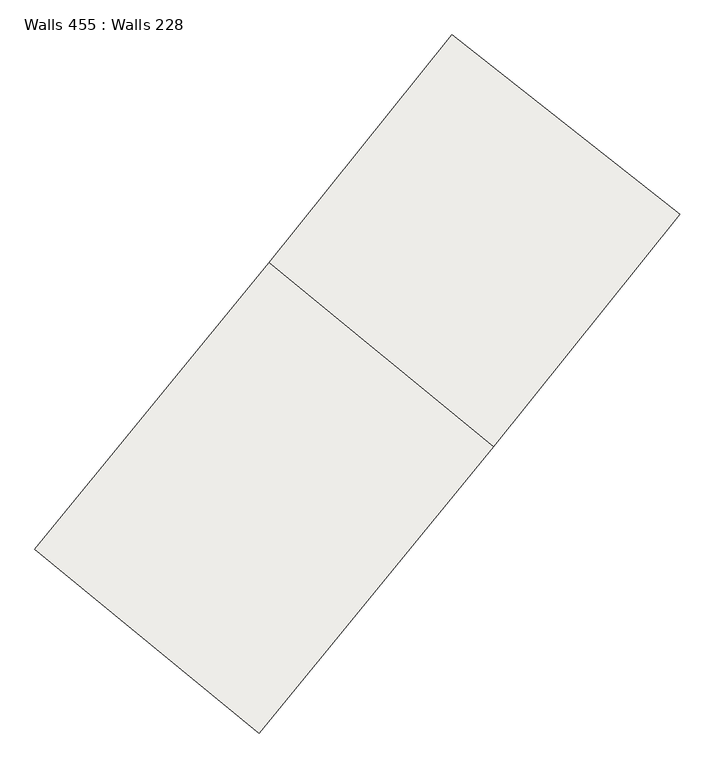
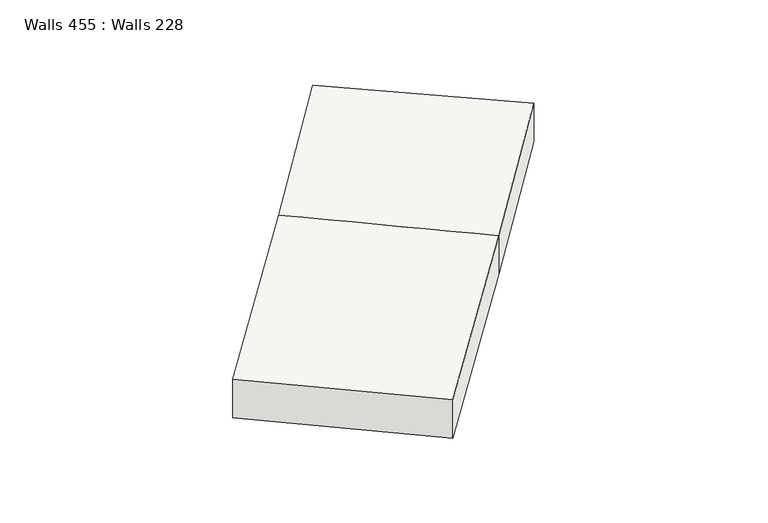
"""IFC4 building model written with IfcOpenShell, lengths in millimetres: slab geometry, Walls 455 : Walls 228."""

from ifc_helpers import new_model, si_unit, frame, origin, place, context, project, spatial, source, transform, mapped, element, save
from ifc_brep_helpers import plane_surface, spline_curve, spline_surface, advanced_brep


def walls_455_walls_228_9b14777b(model_context):
    return source(origin(), model_context, "Body", "AdvancedBrep", [
        advanced_brep(
        [(418658.0274519, 290667.4526974, 645362.0), (418658.0274519, 290667.4526974, 646162.0), (415716.9714315, 293073.7339537, 646162.0), (415716.9714315, 293073.7339537, 645362.0), (421730.3363198, 294422.5550856, 646225.0), (418789.2802994, 296828.836342, 646225.0), (418789.2802994, 296828.836342, 645425.0), (421730.3363198, 294422.5550856, 645425.0), (424174.0257505, 297469.5496491, 645474.7), (421187.7704867, 299818.3651407, 645474.7), (421187.7704867, 299818.3651407, 646274.7), (424174.0257505, 297469.5496491, 646274.7)],
        [
            (0, 1),
            (1, 2),
            (2, 3),
            (3, 0),
            (1, 4),
            (4, 5, spline_curve(3, [(421730.3363198, 294422.5550856, 646225.0), (420749.984312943, 295224.648837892, 646225.0), (419769.632306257, 296026.742589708, 646225.0), (418789.2802994, 296828.836342, 646225.0)], [4, 4], [0.0, 12.466037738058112])),
            (5, 2),
            (5, 6, spline_curve(3, [(418789.2802994, 296828.836342, 646225.0), (418789.2802994, 296828.836342, 645958.333333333), (418789.2802994, 296828.836342, 645691.666666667), (418789.2802994, 296828.836342, 645425.0)], [4, 4], [0.0, 2.6246719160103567])),
            (6, 3),
            (6, 7, spline_curve(3, [(418789.2802994, 296828.836342, 645425.0), (419769.632306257, 296026.742589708, 645425.0), (420749.984312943, 295224.648837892, 645425.0), (421730.3363198, 294422.5550856, 645425.0)], [4, 4], [0.0, 12.466037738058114])),
            (7, 0),
            (7, 4, spline_curve(3, [(421730.3363198, 294422.5550856, 645425.0), (421730.3363198, 294422.5550856, 645691.666666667), (421730.3363198, 294422.5550856, 645958.333333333), (421730.3363198, 294422.5550856, 646225.0)], [4, 4], [0.0, 2.6246719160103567])),
            (8, 9),
            (9, 10),
            (10, 11),
            (11, 8),
            (10, 5, spline_curve(3, [(421187.7704867, 299818.3651407, 646274.7), (420397.885071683, 298814.194336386, 646258.133333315), (419598.339006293, 297817.623252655, 646241.566666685), (418789.2802994, 296828.836342, 646225.0)], [4, 4], [0.0, 12.695815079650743])),
            (4, 11, spline_curve(3, [(421730.3363198, 294422.5550856, 646225.0), (422554.646682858, 295430.353463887, 646241.566666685), (423369.260069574, 296446.081002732, 646258.133333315), (424174.0257505, 297469.5496491, 646274.7)], [4, 4], [0.0, 12.695815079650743])),
            (9, 6, spline_curve(3, [(421187.7704867, 299818.3651407, 645474.7), (420397.885071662, 298814.194336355, 645458.133333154), (419598.339006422, 297817.62325253, 645441.566666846), (418789.2802994, 296828.836342, 645425.0)], [4, 4], [0.0, 12.575895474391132])),
            (8, 7, spline_curve(3, [(424174.0257505, 297469.5496491, 645474.7), (423369.260069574, 296446.081002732, 645458.133333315), (422554.646682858, 295430.353463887, 645441.566666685), (421730.3363198, 294422.5550856, 645425.0)], [4, 4], [0.0, 12.695815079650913])),
        ],
        [
            plane_surface(frame((417187.4994417, 291870.5933256, 645762.0), z_axis=(-0.6332319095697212, -0.773962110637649, 0.0), x_axis=(0.0, 0.0, 1.0))),
            plane_surface(frame((420259.8083096, 295625.6957138, 646225.0), z_axis=(-0.008221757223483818, -0.01004897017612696, 0.9999157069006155), x_axis=(-0.7739621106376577, 0.6332319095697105, 0.0))),
            plane_surface(frame((418789.2802994, 296828.836342, 645825.0), z_axis=(-0.7739621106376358, 0.6332319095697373, 0.0), x_axis=(0.0, 0.0, -1.0))),
            plane_surface(frame((420259.8083096, 295625.6957138, 645425.0), z_axis=(0.008221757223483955, 0.010048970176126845, -0.9999157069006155), x_axis=(0.773962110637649, -0.6332319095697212, 0.0))),
            plane_surface(frame((421730.3363198, 294422.5550856, 645825.0), z_axis=(0.7739621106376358, -0.6332319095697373, 0.0), x_axis=(0.0, 0.0, 1.0))),
            plane_surface(frame((422680.8981186, 298643.9573949, 645874.7), z_axis=(0.6182237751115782, 0.7860021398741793, 0.0), x_axis=(0.0, 0.0, 1.0))),
            spline_surface(3, 3, [[(424174.0257505, 297469.5496491, 646274.7), (423369.260069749, 296446.081002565, 646258.133333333), (422554.646682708, 295430.353463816, 646241.566666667), (421730.3363198, 294422.5550856, 646225.0)], [(423178.607329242, 298252.488146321, 646274.7), (422378.801737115, 297235.45211386, 646258.133333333), (421569.210790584, 296226.110060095, 646241.566666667), (420749.984312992, 295224.648837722, 646225.0)], [(422183.188907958, 299035.426643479, 646274.7), (421388.343404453, 298024.823225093, 646258.133333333), (420583.774898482, 297021.866656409, 646241.566666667), (419769.632306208, 296026.742589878, 646225.0)], [(421187.7704867, 299818.3651407, 646274.7), (420397.885071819, 298814.194336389, 646258.133333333), (419598.339006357, 297817.623252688, 646241.566666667), (418789.2802994, 296828.836342, 646225.0)]], [4, 4], [4, 4], [0.0, 12.466037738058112], [0.0, 12.695815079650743]),
            spline_surface(3, 3, [[(421187.7704867, 299818.3651407, 646274.7), (420397.885071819, 298814.194336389, 646258.133333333), (419598.339006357, 297817.623252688, 646241.566666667), (418789.2802994, 296828.836342, 646225.0)], [(421187.7704867, 299818.3651407, 646008.033333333), (420397.885071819, 298814.194336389, 645991.466666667), (419598.339006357, 297817.623252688, 645974.9), (418789.2802994, 296828.836342, 645958.333333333)], [(421187.7704867, 299818.3651407, 645741.366666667), (420397.885071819, 298814.194336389, 645724.8), (419598.339006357, 297817.623252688, 645708.233333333), (418789.2802994, 296828.836342, 645691.666666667)], [(421187.7704867, 299818.3651407, 645474.7), (420397.885071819, 298814.194336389, 645458.133333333), (419598.339006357, 297817.623252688, 645441.566666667), (418789.2802994, 296828.836342, 645425.0)]], [4, 4], [4, 4], [0.0, 2.6246719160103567], [0.0, 12.575895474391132]),
            spline_surface(3, 3, [[(421187.7704867, 299818.3651407, 645474.7), (420397.885071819, 298814.194336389, 645458.133333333), (419598.339006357, 297817.623252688, 645441.566666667), (418789.2802994, 296828.836342, 645425.0)], [(422183.188907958, 299035.426643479, 645474.7), (421388.343404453, 298024.823225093, 645458.133333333), (420583.774898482, 297021.866656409, 645441.566666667), (419769.632306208, 296026.742589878, 645425.0)], [(423178.607329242, 298252.488146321, 645474.7), (422378.801737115, 297235.45211386, 645458.133333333), (421569.210790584, 296226.110060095, 645441.566666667), (420749.984312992, 295224.648837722, 645425.0)], [(424174.0257505, 297469.5496491, 645474.7), (423369.260069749, 296446.081002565, 645458.133333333), (422554.646682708, 295430.353463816, 645441.566666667), (421730.3363198, 294422.5550856, 645425.0)]], [4, 4], [4, 4], [0.0, 12.466037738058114], [0.0, 12.695815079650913]),
            spline_surface(3, 3, [[(424174.0257505, 297469.5496491, 645474.7), (423369.260069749, 296446.081002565, 645458.133333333), (422554.646682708, 295430.353463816, 645441.566666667), (421730.3363198, 294422.5550856, 645425.0)], [(424174.0257505, 297469.5496491, 645741.366666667), (423369.260069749, 296446.081002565, 645724.8), (422554.646682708, 295430.353463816, 645708.233333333), (421730.3363198, 294422.5550856, 645691.666666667)], [(424174.0257505, 297469.5496491, 646008.033333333), (423369.260069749, 296446.081002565, 645991.466666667), (422554.646682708, 295430.353463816, 645974.9), (421730.3363198, 294422.5550856, 645958.333333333)], [(424174.0257505, 297469.5496491, 646274.7), (423369.260069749, 296446.081002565, 646258.133333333), (422554.646682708, 295430.353463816, 646241.566666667), (421730.3363198, 294422.5550856, 646225.0)]], [4, 4], [4, 4], [0.0, 2.6246719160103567], [0.0, 12.815734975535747]),
        ],
        [
            (0, [[1, 2, 3, 4]]),
            (1, [[-2, 5, 6, 7]]),
            (2, [[-3, -7, 8, 9]]),
            (3, [[-4, -9, 10, 11]]),
            (4, [[-1, -11, 12, -5]]),
            (5, [[13, 14, 15, 16]]),
            (6, [[-15, 17, -6, 18]]),
            (7, [[-14, 19, -8, -17]]),
            (8, [[-13, 20, -10, -19]]),
            (9, [[-16, -18, -12, -20]]),
        ],
    ),
    ])


if __name__ == "__main__":
    model = new_model("IFC4")
    model_context = context("Model", 3, world=origin())
    ifc_project = project(units=[si_unit("LENGTHUNIT", "METRE", prefix="MILLI")], contexts=[model_context])
    site = spatial("IfcSite", under=ifc_project)
    building = spatial("IfcBuilding", under=site)
    placement = place(None, origin())
    walls_455_walls_228_shape = walls_455_walls_228_9b14777b(model_context)
    element("IfcSlab", 1, ObjectType="Walls 455 : Walls 228", at=placement, inside=building, context=model_context, shape_type="MappedRepresentation", body=[
        mapped(walls_455_walls_228_shape, transform((0.0, 0.0, 0.0), x_axis=(1.0, 0.0, 0.0), y_axis=(0.0, 1.0, 0.0), z_axis=(0.0, 0.0, 1.0))),
    ])
    save(model, "model.ifc")
